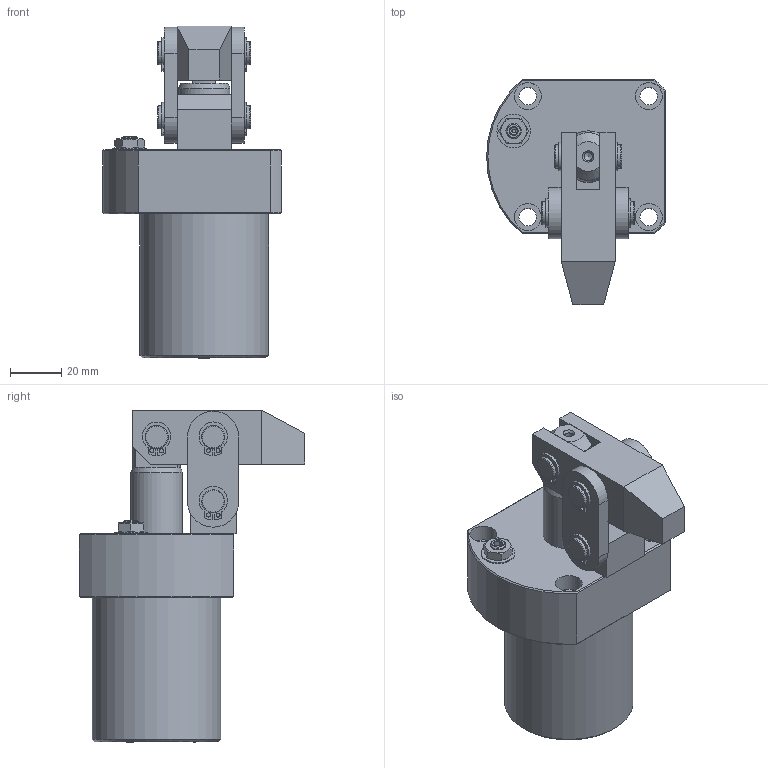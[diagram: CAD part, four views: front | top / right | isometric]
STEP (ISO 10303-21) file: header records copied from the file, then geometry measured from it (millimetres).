
FILE_DESCRIPTION(/* description */ ('Unknown'),/* implementation_level */ '2;1');
FILE_NAME(/* name */ 'HLB-FCM32-R-A',/* time_stamp */ '2025-05-31T01:01:00+08:00',/* author */ ('Unknown'),/* organization */ ('Unknown'),/* preprocessor_version */ 'ST-DEVELOPER v16.7',/* originating_system */ 'DEX',/* authorisation */ $);
FILE_SCHEMA (('AUTOMOTIVE_DESIGN {1 0 10303 214 3 1 1}'));
Length unit declared in the file: millimetre
Products named in the file (8): HLB-FCM32-R-A; HLB-FCM32-R-CYLINDER; HLB-32-¹ÔeRefs; HLB-32-A; HLB-3202-AXLE CENTRE; HLB-32-PINｵuｭ.par:1; HLB-32-PINªø; HLB-32-C¦©8ž
Assembly tree (14 placements, depth 2):
  HLB-FCM32-R-A
    HLB-FCM32-R-CYLINDER
    HLB-32-¹ÔeRefs  x2
    HLB-32-A
    HLB-3202-AXLE CENTRE
    HLB-32-PINｵuｭ.par:1
    HLB-32-PINªø  x2
    HLB-32-C¦©8ž  x6
Bounding box: 69.5 x 87.5 x 129 mm (x, y, z)
Volume: 233075.6 mm3; surface area: 56507.9 mm2
Topology: 14 solids, 14 shells, 287 faces, 671 edges, 443 vertices
Faces by surface type: plane 127, cylinder 115, cone 25, bspline 12, torus 8
Full cylindrical faces by diameter (mm): 1.575 x12, 2.5 x2, 3.2 x1, 4.1 x2, 6 x1, 6.8 x4, 8.5 x10, 9 x14, 10 x2, 10.5 x4, 13 x1, 20 x2, 32 x2, 50 x1
Entity records: 5188 total; most frequent: CARTESIAN_POINT 1139, DIRECTION 791, ORIENTED_EDGE 674, EDGE_CURVE 337, AXIS2_PLACEMENT_3D 333, FACE_BOUND 298, EDGE_LOOP 297, VERTEX_POINT 251
